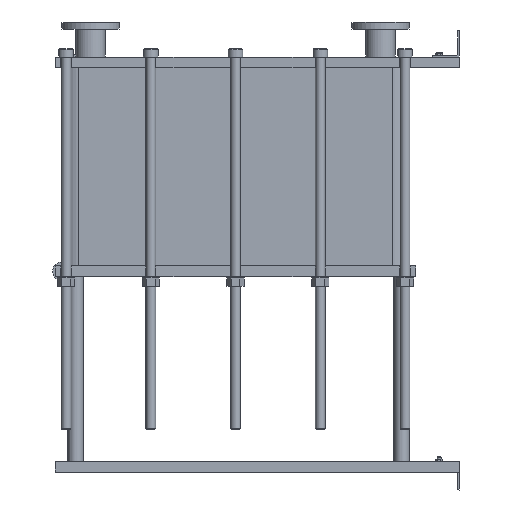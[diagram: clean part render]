
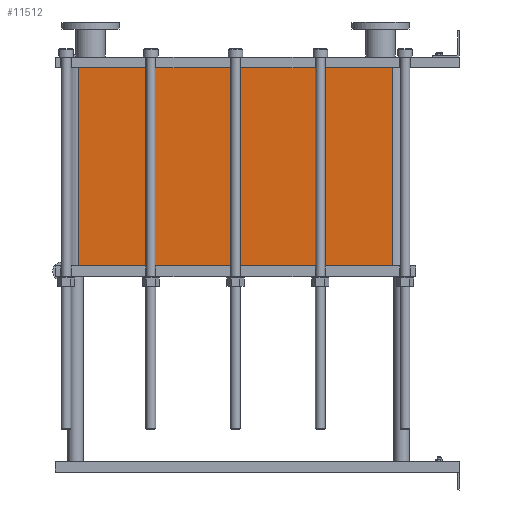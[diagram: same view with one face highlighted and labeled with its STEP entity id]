
A CAD part, left-side view. The second image highlights one B-rep face of the part: STEP entity #11512.
In plain terms, the highlighted planar face has unit normal (-1, 0, 0).
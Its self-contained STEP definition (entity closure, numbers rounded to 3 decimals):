
#1129=LINE('',#23232,#2102);
#1130=LINE('',#23236,#2103);
#1131=LINE('',#23238,#2104);
#1132=LINE('',#23239,#2105);
#2102=VECTOR('',#15887,10.);
#2103=VECTOR('',#15892,10.);
#2104=VECTOR('',#15893,10.);
#2105=VECTOR('',#15894,10.);
#3267=FACE_OUTER_BOUND('',#4093,.T.);
#4093=EDGE_LOOP('',(#10103,#10104,#10105,#10106));
#5642=VERTEX_POINT('',#23229);
#5643=VERTEX_POINT('',#23231);
#5644=VERTEX_POINT('',#23235);
#5645=VERTEX_POINT('',#23237);
#7159=EDGE_CURVE('',#5643,#5642,#1129,.T.);
#7161=EDGE_CURVE('',#5642,#5644,#1130,.T.);
#7162=EDGE_CURVE('',#5645,#5644,#1131,.T.);
#7163=EDGE_CURVE('',#5645,#5643,#1132,.T.);
#10103=ORIENTED_EDGE('',*,*,#7161,.T.);
#10104=ORIENTED_EDGE('',*,*,#7162,.F.);
#10105=ORIENTED_EDGE('',*,*,#7163,.T.);
#10106=ORIENTED_EDGE('',*,*,#7159,.T.);
#10857=PLANE('',#12751);
#11512=ADVANCED_FACE('',(#3267),#10857,.T.);
#12751=AXIS2_PLACEMENT_3D('',#23234,#15890,#15891);
#15887=DIRECTION('',(0.,0.,-1.));
#15890=DIRECTION('center_axis',(-1.,0.,0.));
#15891=DIRECTION('ref_axis',(0.,1.,0.));
#15892=DIRECTION('',(0.,-1.,0.));
#15893=DIRECTION('',(0.,0.,-1.));
#15894=DIRECTION('',(0.,1.,0.));
#23229=CARTESIAN_POINT('',(-200.,1414.,-734.85));
#23231=CARTESIAN_POINT('',(-200.,1414.,0.));
#23232=CARTESIAN_POINT('',(-200.,1414.,0.));
#23234=CARTESIAN_POINT('Origin',(-200.,248.,0.));
#23235=CARTESIAN_POINT('',(-200.,248.,-734.85));
#23236=CARTESIAN_POINT('',(-200.,539.5,-734.85));
#23237=CARTESIAN_POINT('',(-200.,248.,0.));
#23238=CARTESIAN_POINT('',(-200.,248.,0.));
#23239=CARTESIAN_POINT('',(-200.,248.,0.));
